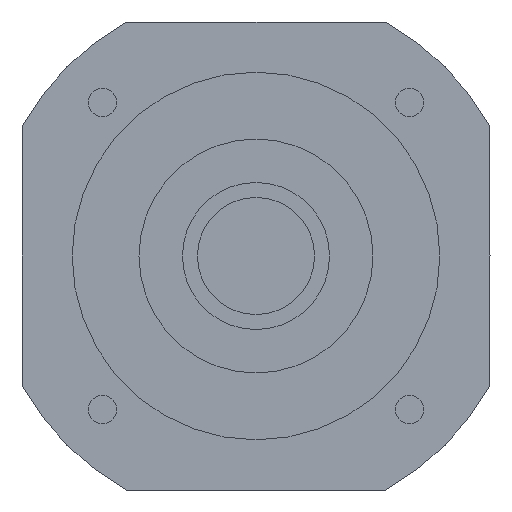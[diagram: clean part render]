
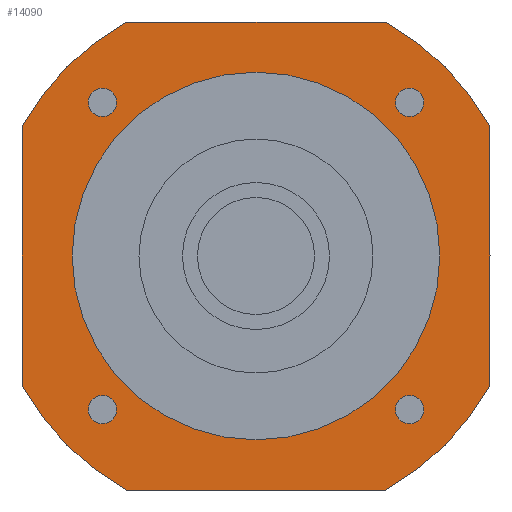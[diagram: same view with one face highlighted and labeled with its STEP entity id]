
A CAD part, left-side view. The second image highlights one B-rep face of the part: STEP entity #14090.
In plain terms, the highlighted planar face has unit normal (-1, 0, 0) as drawn and (0, 0, -1) by its records, which use the part's own axes.
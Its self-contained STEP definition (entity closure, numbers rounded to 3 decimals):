
#10470=CARTESIAN_POINT('',(-41.712,45.962,-84.7));
#10480=VERTEX_POINT('',#10470);
#10510=CARTESIAN_POINT('',(-45.962,45.962,-84.7));
#10520=DIRECTION('',(0.,0.,-1.));
#10530=DIRECTION('',(-1.,0.,0.));
#10540=AXIS2_PLACEMENT_3D('',#10510,#10520,#10530);
#10550=CIRCLE('',#10540,4.25);
#10560=CARTESIAN_POINT('',(-50.212,45.962,-84.7));
#10570=VERTEX_POINT('',#10560);
#10580=EDGE_CURVE('',#10570,#10480,#10550,.T.);
#12500=CARTESIAN_POINT('',(55.,0.,-84.7));
#12510=VERTEX_POINT('',#12500);
#12540=CARTESIAN_POINT('',(0.,0.,
-84.7));
#12550=DIRECTION('',(0.,0.,1.));
#12560=DIRECTION('',(0.,1.,0.));
#12570=AXIS2_PLACEMENT_3D('',#12540,#12550,#12560);
#12580=CIRCLE('',#12570,55.);
#12590=CARTESIAN_POINT('',(0.,55.,-84.7));
#12600=VERTEX_POINT('',#12590);
#12610=EDGE_CURVE('',#12510,#12600,#12580,.T.);
#12630=CARTESIAN_POINT('',(-55.,0.,-84.7));
#12640=VERTEX_POINT('',#12630);
#12650=EDGE_CURVE('',#12600,#12640,#12580,.T.);
#12780=CARTESIAN_POINT('',(70.,70.,-84.7));
#12790=DIRECTION('',(0.,0.,-1.));
#12800=DIRECTION('',(1.,0.,0.));
#12810=AXIS2_PLACEMENT_3D('',#12780,#12790,#12800);
#12820=PLANE('',#12810);
#12830=CARTESIAN_POINT('',(-45.962,-45.962,-84.7));
#12840=DIRECTION('',(0.,0.,-1.));
#12850=DIRECTION('',(0.,-1.,0.));
#12860=AXIS2_PLACEMENT_3D('',#12830,#12840,#12850);
#12870=CIRCLE('',#12860,4.25);
#12880=CARTESIAN_POINT('',(-45.962,-50.212,-84.7));
#12890=VERTEX_POINT('',#12880);
#12900=CARTESIAN_POINT('',(-45.962,-41.712,-84.7));
#12910=VERTEX_POINT('',#12900);
#12920=EDGE_CURVE('',#12890,#12910,#12870,.T.);
#12930=ORIENTED_EDGE('',*,*,#12920,.F.);
#12940=EDGE_CURVE('',#12910,#12890,#12870,.T.);
#12950=ORIENTED_EDGE('',*,*,#12940,.F.);
#12960=EDGE_LOOP('',(#12950,#12930));
#12970=FACE_BOUND('',#12960,.T.);
#12980=ORIENTED_EDGE('',*,*,#10580,.F.);
#12990=EDGE_CURVE('',#10480,#10570,#10550,.T.);
#13000=ORIENTED_EDGE('',*,*,#12990,.F.);
#13010=EDGE_LOOP('',(#13000,#12980));
#13020=FACE_BOUND('',#13010,.T.);
#13030=CARTESIAN_POINT('',(45.962,45.962,-84.7));
#13040=DIRECTION('',(0.,0.,-1.));
#13050=DIRECTION('',(0.,1.,0.));
#13060=AXIS2_PLACEMENT_3D('',#13030,#13040,#13050);
#13070=CIRCLE('',#13060,4.25);
#13080=CARTESIAN_POINT('',(45.962,50.212,-84.7));
#13090=VERTEX_POINT('',#13080);
#13100=CARTESIAN_POINT('',(45.962,41.712,-84.7));
#13110=VERTEX_POINT('',#13100);
#13120=EDGE_CURVE('',#13090,#13110,#13070,.T.);
#13130=ORIENTED_EDGE('',*,*,#13120,.F.);
#13140=EDGE_CURVE('',#13110,#13090,#13070,.T.);
#13150=ORIENTED_EDGE('',*,*,#13140,.F.);
#13160=EDGE_LOOP('',(#13150,#13130));
#13170=FACE_BOUND('',#13160,.T.);
#13180=EDGE_CURVE('',#12640,#12510,#12580,.T.);
#13190=ORIENTED_EDGE('',*,*,#13180,.T.);
#13200=ORIENTED_EDGE('',*,*,#12650,.T.);
#13210=ORIENTED_EDGE('',*,*,#12610,.T.);
#13220=EDGE_LOOP('',(#13210,#13200,#13190));
#13230=FACE_BOUND('',#13220,.T.);
#13240=CARTESIAN_POINT('',(-70.,70.,-84.7));
#13250=DIRECTION('',(1.,0.,0.));
#13260=VECTOR('',#13250,1000.);
#13270=LINE('',#13240,#13260);
#13280=CARTESIAN_POINT('',(-38.73,70.,-84.7));
#13290=VERTEX_POINT('',#13280);
#13300=CARTESIAN_POINT('',(38.73,70.,-84.7));
#13310=VERTEX_POINT('',#13300);
#13320=EDGE_CURVE('',#13290,#13310,#13270,.T.);
#13330=ORIENTED_EDGE('',*,*,#13320,.T.);
#13340=CARTESIAN_POINT('',(0.,0.,
-84.7));
#13350=DIRECTION('',(0.,0.,-1.));
#13360=DIRECTION('',(1.,0.,0.));
#13370=AXIS2_PLACEMENT_3D('',#13340,#13350,#13360);
#13380=CIRCLE('',#13370,80.);
#13390=CARTESIAN_POINT('',(-70.,38.73,-84.7));
#13400=VERTEX_POINT('',#13390);
#13410=EDGE_CURVE('',#13400,#13290,#13380,.T.);
#13420=ORIENTED_EDGE('',*,*,#13410,.T.);
#13430=CARTESIAN_POINT('',(-70.,-70.,-84.7));
#13440=DIRECTION('',(0.,1.,0.));
#13450=VECTOR('',#13440,1000.);
#13460=LINE('',#13430,#13450);
#13470=CARTESIAN_POINT('',(-70.,-38.73,-84.7));
#13480=VERTEX_POINT('',#13470);
#13490=EDGE_CURVE('',#13480,#13400,#13460,.T.);
#13500=ORIENTED_EDGE('',*,*,#13490,.T.);
#13510=CARTESIAN_POINT('',(0.,0.,
-84.7));
#13520=DIRECTION('',(0.,0.,-1.));
#13530=DIRECTION('',(1.,0.,0.));
#13540=AXIS2_PLACEMENT_3D('',#13510,#13520,#13530);
#13550=CIRCLE('',#13540,80.);
#13560=CARTESIAN_POINT('',(-38.73,-70.,-84.7));
#13570=VERTEX_POINT('',#13560);
#13580=EDGE_CURVE('',#13570,#13480,#13550,.T.);
#13590=ORIENTED_EDGE('',*,*,#13580,.T.);
#13600=CARTESIAN_POINT('',(70.,-70.,-84.7));
#13610=DIRECTION('',(-1.,0.,0.));
#13620=VECTOR('',#13610,1000.);
#13630=LINE('',#13600,#13620);
#13640=CARTESIAN_POINT('',(38.73,-70.,-84.7));
#13650=VERTEX_POINT('',#13640);
#13660=EDGE_CURVE('',#13650,#13570,#13630,.T.);
#13670=ORIENTED_EDGE('',*,*,#13660,.T.);
#13680=CARTESIAN_POINT('',(0.,0.,
-84.7));
#13690=DIRECTION('',(0.,0.,-1.));
#13700=DIRECTION('',(1.,0.,0.));
#13710=AXIS2_PLACEMENT_3D('',#13680,#13690,#13700);
#13720=CIRCLE('',#13710,80.);
#13730=CARTESIAN_POINT('',(70.,-38.73,-84.7));
#13740=VERTEX_POINT('',#13730);
#13750=EDGE_CURVE('',#13740,#13650,#13720,.T.);
#13760=ORIENTED_EDGE('',*,*,#13750,.T.);
#13770=CARTESIAN_POINT('',(70.,70.,-84.7));
#13780=DIRECTION('',(0.,-1.,0.));
#13790=VECTOR('',#13780,1000.);
#13800=LINE('',#13770,#13790);
#13810=CARTESIAN_POINT('',(70.,38.73,-84.7));
#13820=VERTEX_POINT('',#13810);
#13830=EDGE_CURVE('',#13820,#13740,#13800,.T.);
#13840=ORIENTED_EDGE('',*,*,#13830,.T.);
#13850=CARTESIAN_POINT('',(0.,0.,
-84.7));
#13860=DIRECTION('',(0.,0.,-1.));
#13870=DIRECTION('',(1.,0.,0.));
#13880=AXIS2_PLACEMENT_3D('',#13850,#13860,#13870);
#13890=CIRCLE('',#13880,80.);
#13900=EDGE_CURVE('',#13310,#13820,#13890,.T.);
#13910=ORIENTED_EDGE('',*,*,#13900,.T.);
#13920=EDGE_LOOP('',(#13910,#13840,#13760,#13670,#13590,#13500,#13420,
#13330));
#13930=FACE_OUTER_BOUND('',#13920,.T.);
#13940=CARTESIAN_POINT('',(45.962,-45.962,-84.7));
#13950=DIRECTION('',(0.,0.,-1.));
#13960=DIRECTION('',(1.,0.,0.));
#13970=AXIS2_PLACEMENT_3D('',#13940,#13950,#13960);
#13980=CIRCLE('',#13970,4.25);
#13990=CARTESIAN_POINT('',(50.212,-45.962,-84.7));
#14000=VERTEX_POINT('',#13990);
#14010=CARTESIAN_POINT('',(41.712,-45.962,-84.7));
#14020=VERTEX_POINT('',#14010);
#14030=EDGE_CURVE('',#14000,#14020,#13980,.T.);
#14040=ORIENTED_EDGE('',*,*,#14030,.F.);
#14050=EDGE_CURVE('',#14020,#14000,#13980,.T.);
#14060=ORIENTED_EDGE('',*,*,#14050,.F.);
#14070=EDGE_LOOP('',(#14060,#14040));
#14080=FACE_BOUND('',#14070,.T.);
#14090=ADVANCED_FACE('',(#12970,#13020,#13170,#13230,#13930,#14080),
#12820,.T.);
